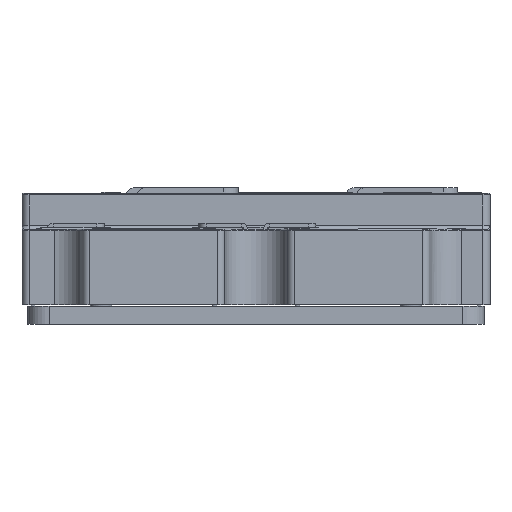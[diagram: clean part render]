
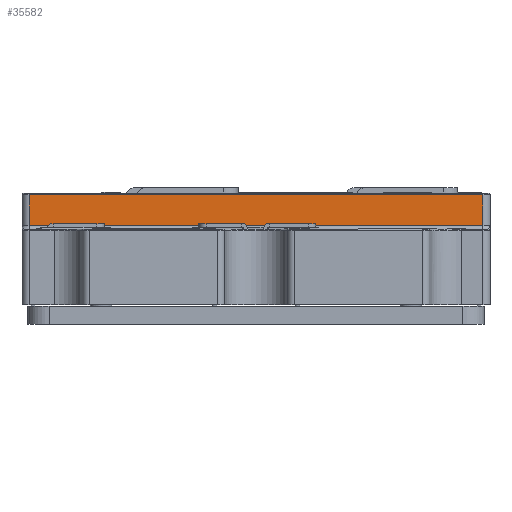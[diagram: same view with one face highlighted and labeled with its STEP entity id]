
A CAD part, front view. The second image highlights one B-rep face of the part: STEP entity #35582.
In plain terms, the highlighted planar face has unit normal (0, -1, 0).
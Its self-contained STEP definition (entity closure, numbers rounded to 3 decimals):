
#3993 = VERTEX_POINT ( 'NONE', #24750 ) ;
#4014 = EDGE_CURVE ( 'NONE', #3993, #6126, #24951, .T. ) ;
#4648 = VERTEX_POINT ( 'NONE', #33575 ) ;
#6126 = VERTEX_POINT ( 'NONE', #35943 ) ;
#9591 = CARTESIAN_POINT ( 'NONE',  ( 63., -32.5, 36.5 ) ) ;
#9592 = LINE ( 'NONE', #9591, #9652 ) ;
#9650 = DIRECTION ( 'NONE',  ( 0., 0., 1. ) ) ;
#9652 = VECTOR ( 'NONE', #9650, 1000. ) ;
#9941 = CARTESIAN_POINT ( 'NONE',  ( 63., -32.5, 27.5 ) ) ;
#15446 = LINE ( 'NONE', #15525, #15524 ) ;
#15456 = FACE_OUTER_BOUND ( 'NONE', #35713, .T. ) ;
#15523 = DIRECTION ( 'NONE',  ( 1., 0., 0. ) ) ;
#15524 = VECTOR ( 'NONE', #15523, 1000. ) ;
#15525 = CARTESIAN_POINT ( 'NONE',  ( 65., -32.5, 27.5 ) ) ;
#15527 = DIRECTION ( 'NONE',  ( 0., 0., -1. ) ) ;
#15528 = DIRECTION ( 'NONE',  ( 0., -1., 0. ) ) ;
#15530 = CARTESIAN_POINT ( 'NONE',  ( 65., -32.5, 36.5 ) ) ;
#15531 = AXIS2_PLACEMENT_3D ( 'NONE', #15530, #15528, #15527 ) ;
#15532 = PLANE ( 'NONE',  #15531 ) ;
#15875 = DIRECTION ( 'NONE',  ( -1., 0., 0. ) ) ;
#15876 = VECTOR ( 'NONE', #15875, 1000. ) ;
#15907 = CARTESIAN_POINT ( 'NONE',  ( 0., -32.5, 36. ) ) ;
#15909 = LINE ( 'NONE', #15907, #15876 ) ;
#20078 = EDGE_CURVE ( 'NONE', #20106, #4648, #9592, .T. ) ;
#20106 = VERTEX_POINT ( 'NONE', #9941 ) ;
#24750 = CARTESIAN_POINT ( 'NONE',  ( -63., -32.5, 36. ) ) ;
#24930 = DIRECTION ( 'NONE',  ( 0., 0., -1. ) ) ;
#24946 = VECTOR ( 'NONE', #24930, 1000. ) ;
#24949 = CARTESIAN_POINT ( 'NONE',  ( -63., -32.5, 36.5 ) ) ;
#24951 = LINE ( 'NONE', #24949, #24946 ) ;
#33575 = CARTESIAN_POINT ( 'NONE',  ( 63., -32.5, 36. ) ) ;
#35582 = ADVANCED_FACE ( 'NONE', ( #15456 ), #15532, .T. ) ;
#35583 = EDGE_CURVE ( 'NONE', #6126, #20106, #15446, .T. ) ;
#35632 = ORIENTED_EDGE ( 'NONE', *, *, #35643, .T. ) ;
#35643 = EDGE_CURVE ( 'NONE', #4648, #3993, #15909, .T. ) ;
#35645 = ORIENTED_EDGE ( 'NONE', *, *, #4014, .T. ) ;
#35647 = ORIENTED_EDGE ( 'NONE', *, *, #20078, .T. ) ;
#35713 = EDGE_LOOP ( 'NONE', ( #35645, #35714, #35647, #35632 ) ) ;
#35714 = ORIENTED_EDGE ( 'NONE', *, *, #35583, .T. ) ;
#35943 = CARTESIAN_POINT ( 'NONE',  ( -63., -32.5, 27.5 ) ) ;
